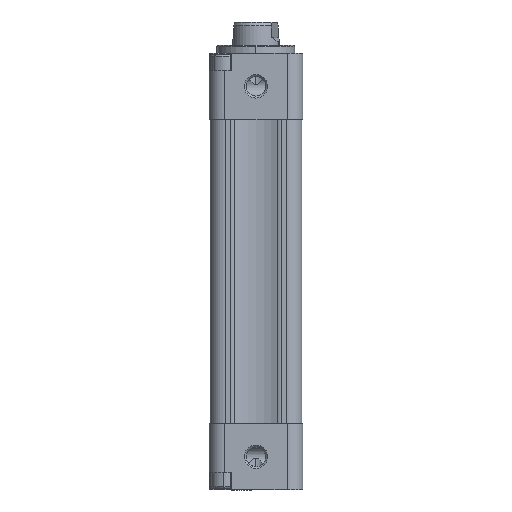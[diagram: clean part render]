
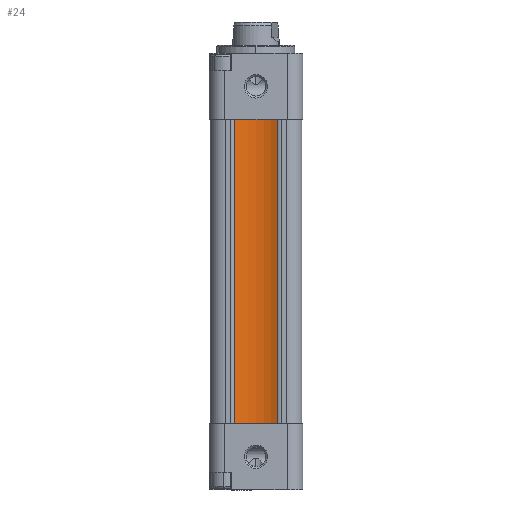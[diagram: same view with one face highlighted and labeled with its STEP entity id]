
A CAD part, front view. The second image highlights one B-rep face of the part: STEP entity #24.
In plain terms, the highlighted cylindrical face has radius 12.75 mm (diameter 25.5 mm), a partial arc.
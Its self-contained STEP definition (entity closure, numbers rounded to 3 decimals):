
#24 = ADVANCED_FACE ( 'NONE', ( #2987 ), #15612, .F. ) ;
#282 = VECTOR ( 'NONE', #6684, 1000. ) ;
#785 = ORIENTED_EDGE ( 'NONE', *, *, #1963, .F. ) ;
#1963 = EDGE_CURVE ( 'NONE', #18317, #25659, #3215, .T. ) ;
#2801 = AXIS2_PLACEMENT_3D ( 'NONE', #11271, #21895, #21990 ) ;
#2888 = DIRECTION ( 'NONE',  ( 0., -1., 0. ) ) ;
#2987 = FACE_OUTER_BOUND ( 'NONE', #12024, .T. ) ;
#3215 = LINE ( 'NONE', #17337, #7203 ) ;
#5113 = ORIENTED_EDGE ( 'NONE', *, *, #18309, .F. ) ;
#5309 = DIRECTION ( 'NONE',  ( 0., 0., 1. ) ) ;
#6684 = DIRECTION ( 'NONE',  ( 0., 0., 1. ) ) ;
#6875 = CARTESIAN_POINT ( 'NONE',  ( 5.602, -29.547, -17. ) ) ;
#7203 = VECTOR ( 'NONE', #11171, 1000. ) ;
#8132 = CIRCLE ( 'NONE', #2801, 12.75 ) ;
#8232 = LINE ( 'NONE', #25883, #282 ) ;
#9377 = DIRECTION ( 'NONE',  ( 0., -1., 0. ) ) ;
#10123 = EDGE_CURVE ( 'NONE', #18317, #20998, #21961, .T. ) ;
#11171 = DIRECTION ( 'NONE',  ( 0., 0., -1. ) ) ;
#11271 = CARTESIAN_POINT ( 'NONE',  ( 0., -41., -95. ) ) ;
#11929 = CARTESIAN_POINT ( 'NONE',  ( 5.602, -29.547, -95. ) ) ;
#12024 = EDGE_LOOP ( 'NONE', ( #5113, #19061, #785, #19193 ) ) ;
#15612 = CYLINDRICAL_SURFACE ( 'NONE', #23186, 12.75 ) ;
#15718 = CARTESIAN_POINT ( 'NONE',  ( 0., -41., -17. ) ) ;
#15979 = CARTESIAN_POINT ( 'NONE',  ( -5.602, -29.547, -95. ) ) ;
#17337 = CARTESIAN_POINT ( 'NONE',  ( 5.602, -29.547, -105. ) ) ;
#18282 = CARTESIAN_POINT ( 'NONE',  ( -5.602, -29.547, -17. ) ) ;
#18309 = EDGE_CURVE ( 'NONE', #20571, #20998, #8232, .T. ) ;
#18317 = VERTEX_POINT ( 'NONE', #6875 ) ;
#19061 = ORIENTED_EDGE ( 'NONE', *, *, #25602, .F. ) ;
#19193 = ORIENTED_EDGE ( 'NONE', *, *, #10123, .T. ) ;
#19288 = AXIS2_PLACEMENT_3D ( 'NONE', #15718, #5309, #9377 ) ;
#20571 = VERTEX_POINT ( 'NONE', #15979 ) ;
#20998 = VERTEX_POINT ( 'NONE', #18282 ) ;
#21895 = DIRECTION ( 'NONE',  ( 0., 0., 1. ) ) ;
#21961 = CIRCLE ( 'NONE', #19288, 12.75 ) ;
#21990 = DIRECTION ( 'NONE',  ( 0., 1., 0. ) ) ;
#23186 = AXIS2_PLACEMENT_3D ( 'NONE', #26536, #24494, #2888 ) ;
#24494 = DIRECTION ( 'NONE',  ( 0., 0., 1. ) ) ;
#25602 = EDGE_CURVE ( 'NONE', #25659, #20571, #8132, .T. ) ;
#25659 = VERTEX_POINT ( 'NONE', #11929 ) ;
#25883 = CARTESIAN_POINT ( 'NONE',  ( -5.602, -29.547, -105. ) ) ;
#26536 = CARTESIAN_POINT ( 'NONE',  ( 0., -41., -105. ) ) ;
